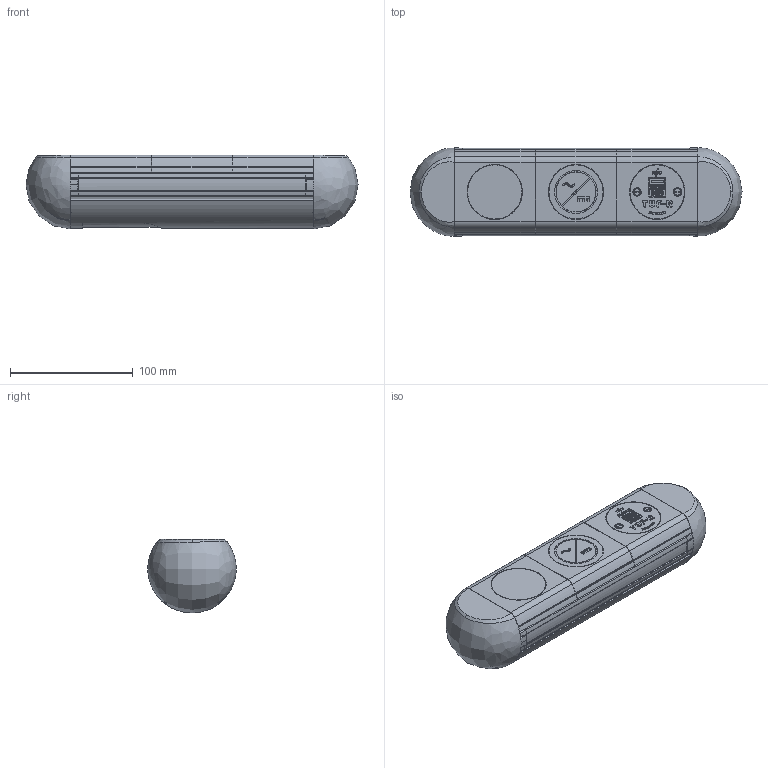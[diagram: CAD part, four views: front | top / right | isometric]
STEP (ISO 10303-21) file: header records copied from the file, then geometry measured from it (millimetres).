
FILE_DESCRIPTION (( 'STEP AP203' ), '1' );
FILE_NAME ('PolarICE_7.STEP', '2023-01-19T11:43:21', ( '' ), ( '' ), 'SwSTEP 2.0', 'SolidWorks 2021', '' );
FILE_SCHEMA (( 'CONFIG_CONTROL_DESIGN' ));
Products named in the file (1): PolarICE_7
Bounding box: 270.75 x 72.14 x 60.19 mm (x, y, z)
Volume: 887967 mm3; surface area: 74420.7 mm2
Topology: 1 solids, 14 shells, 1581 faces, 4092 edges, 2581 vertices
Faces by surface type: plane 674, cylinder 396, bspline 237, torus 144, cone 130
Entity records: 68032 total; most frequent: CARTESIAN_POINT 31407, ORIENTED_EDGE 8172, DIRECTION 6908, EDGE_CURVE 4086, VERTEX_POINT 2581, AXIS2_PLACEMENT_3D 2415, VECTOR 2078, LINE 2078
